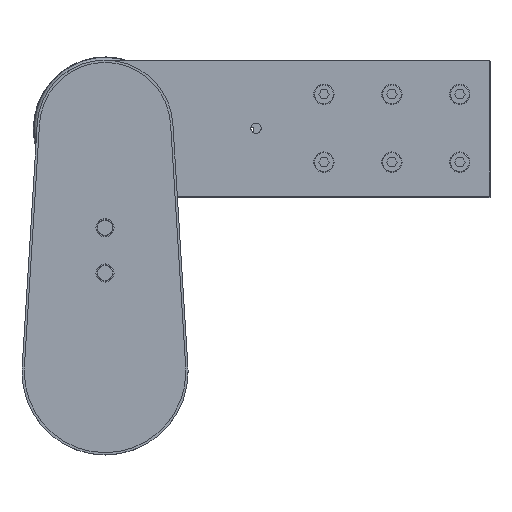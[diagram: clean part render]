
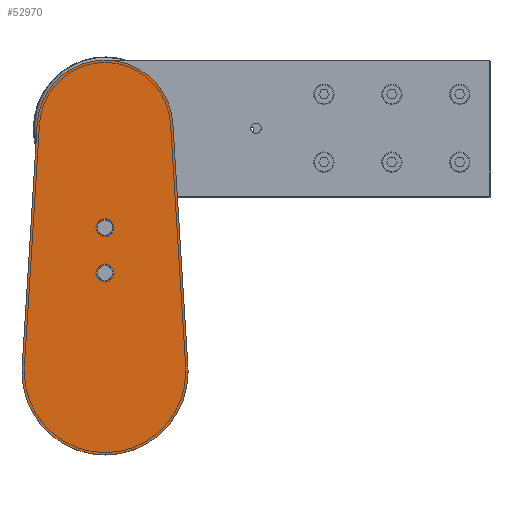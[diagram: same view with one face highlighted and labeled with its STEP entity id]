
A CAD part, top view. The second image highlights one B-rep face of the part: STEP entity #52970.
In plain terms, the highlighted planar face has unit normal (0, 0, 1) as drawn and (0, 0, -1) by its records, which use the part's own axes.
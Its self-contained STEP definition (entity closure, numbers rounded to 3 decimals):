
#586 = VERTEX_POINT ( 'NONE', #28489 ) ;
#587 = VERTEX_POINT ( 'NONE', #28490 ) ;
#591 = VERTEX_POINT ( 'NONE', #28494 ) ;
#594 = VERTEX_POINT ( 'NONE', #28497 ) ;
#597 = VERTEX_POINT ( 'NONE', #28500 ) ;
#609 = VERTEX_POINT ( 'NONE', #28512 ) ;
#3928 = EDGE_CURVE ( 'NONE', #46065, #46064, #30844, .T. ) ;
#4067 = EDGE_CURVE ( 'NONE', #46064, #46065, #30624, .T. ) ;
#4068 = EDGE_CURVE ( 'NONE', #46056, #46058, #30617, .T. ) ;
#4446 = EDGE_CURVE ( 'NONE', #46058, #46056, #30354, .T. ) ;
#4809 = EDGE_CURVE ( 'NONE', #591, #597, #51951, .T. ) ;
#4816 = EDGE_CURVE ( 'NONE', #586, #587, #9361, .T. ) ;
#4826 = EDGE_CURVE ( 'NONE', #594, #586, #9331, .T. ) ;
#4840 = EDGE_CURVE ( 'NONE', #587, #609, #17378, .T. ) ;
#4842 = EDGE_CURVE ( 'NONE', #597, #594, #9272, .T. ) ;
#4856 = EDGE_CURVE ( 'NONE', #609, #591, #9345, .T. ) ;
#6295 = CARTESIAN_POINT ( 'NONE',  ( 0., 95.5, 0. ) ) ;
#6296 = DIRECTION ( 'NONE',  ( 0., 0., -1. ) ) ;
#6297 = DIRECTION ( 'NONE',  ( 1., 0., 0. ) ) ;
#6749 = CARTESIAN_POINT ( 'NONE',  ( 0., 95.5, 0. ) ) ;
#6750 = DIRECTION ( 'NONE',  ( 0., 0., -1. ) ) ;
#6751 = DIRECTION ( 'NONE',  ( 1., 0., 0. ) ) ;
#6753 = CARTESIAN_POINT ( 'NONE',  ( 0., 65.5, 0. ) ) ;
#6754 = DIRECTION ( 'NONE',  ( 0., 0., -1. ) ) ;
#6755 = DIRECTION ( 'NONE',  ( 1., 0., 0. ) ) ;
#7679 = ORIENTED_EDGE ( 'NONE', *, *, #3928, .F. ) ;
#7682 = ORIENTED_EDGE ( 'NONE', *, *, #4067, .F. ) ;
#7685 = ORIENTED_EDGE ( 'NONE', *, *, #4446, .F. ) ;
#7688 = ORIENTED_EDGE ( 'NONE', *, *, #4068, .F. ) ;
#7691 = ORIENTED_EDGE ( 'NONE', *, *, #4856, .F. ) ;
#7694 = ORIENTED_EDGE ( 'NONE', *, *, #4840, .F. ) ;
#7697 = ORIENTED_EDGE ( 'NONE', *, *, #4816, .F. ) ;
#7700 = ORIENTED_EDGE ( 'NONE', *, *, #4826, .F. ) ;
#7703 = ORIENTED_EDGE ( 'NONE', *, *, #4842, .F. ) ;
#7706 = ORIENTED_EDGE ( 'NONE', *, *, #4809, .F. ) ;
#9272 = CIRCLE ( 'NONE', #9274, 55. ) ;
#9274 = AXIS2_PLACEMENT_3D ( 'NONE', #17401, #17403, #17405 ) ;
#9280 = AXIS2_PLACEMENT_3D ( 'NONE', #17333, #17334, #17336 ) ;
#9282 = VECTOR ( 'NONE', #17394, 1000. ) ;
#9302 = AXIS2_PLACEMENT_3D ( 'NONE', #17436, #17437, #17439 ) ;
#9323 = AXIS2_PLACEMENT_3D ( 'NONE', #17353, #17355, #17357 ) ;
#9326 = VECTOR ( 'NONE', #51953, 1000. ) ;
#9331 = CIRCLE ( 'NONE', #9323, 55. ) ;
#9345 = CIRCLE ( 'NONE', #9302, 45. ) ;
#9361 = CIRCLE ( 'NONE', #9280, 55. ) ;
#17333 = CARTESIAN_POINT ( 'NONE',  ( 0., 0., 0. ) ) ;
#17334 = DIRECTION ( 'NONE',  ( 0., 0., 1. ) ) ;
#17336 = DIRECTION ( 'NONE',  ( 1., 0., 0. ) ) ;
#17353 = CARTESIAN_POINT ( 'NONE',  ( 0., 0., 0. ) ) ;
#17355 = DIRECTION ( 'NONE',  ( 0., 0., 1. ) ) ;
#17357 = DIRECTION ( 'NONE',  ( 1., 0., 0. ) ) ;
#17378 = LINE ( 'NONE', #17379, #9282 ) ;
#17379 = CARTESIAN_POINT ( 'NONE',  ( 44.914, 164.286, 0. ) ) ;
#17394 = DIRECTION ( 'NONE',  ( -0.062, 0.998, 0. ) ) ;
#17401 = CARTESIAN_POINT ( 'NONE',  ( 0., 0., 0. ) ) ;
#17403 = DIRECTION ( 'NONE',  ( 0., 0., 1. ) ) ;
#17405 = DIRECTION ( 'NONE',  ( 1., 0., 0. ) ) ;
#17436 = CARTESIAN_POINT ( 'NONE',  ( 0., 161.5, 0. ) ) ;
#17437 = DIRECTION ( 'NONE',  ( 0., 0., 1. ) ) ;
#17439 = DIRECTION ( 'NONE',  ( 1., 0., 0. ) ) ;
#19119 = CARTESIAN_POINT ( 'NONE',  ( -3.5, 65.5, 0. ) ) ;
#19121 = CARTESIAN_POINT ( 'NONE',  ( 3.5, 65.5, 0. ) ) ;
#19128 = CARTESIAN_POINT ( 'NONE',  ( -3.5, 95.5, 0. ) ) ;
#19130 = CARTESIAN_POINT ( 'NONE',  ( 3.5, 95.5, 0. ) ) ;
#23878 = AXIS2_PLACEMENT_3D ( 'NONE', #31850, #31843, #31859 ) ;
#27780 = EDGE_LOOP ( 'NONE', ( #7679, #7682 ) ) ;
#27785 = EDGE_LOOP ( 'NONE', ( #7691, #7694, #7697, #7700, #7703, #7706 ) ) ;
#27954 = EDGE_LOOP ( 'NONE', ( #7685, #7688 ) ) ;
#28489 = CARTESIAN_POINT ( 'NONE',  ( 55., 0., 0. ) ) ;
#28490 = CARTESIAN_POINT ( 'NONE',  ( 54.894, 3.406, 0. ) ) ;
#28494 = CARTESIAN_POINT ( 'NONE',  ( -44.914, 164.286, 0. ) ) ;
#28497 = CARTESIAN_POINT ( 'NONE',  ( -55., 0., 0. ) ) ;
#28500 = CARTESIAN_POINT ( 'NONE',  ( -54.894, 3.406, 0. ) ) ;
#28512 = CARTESIAN_POINT ( 'NONE',  ( 44.914, 164.286, 0. ) ) ;
#30351 = AXIS2_PLACEMENT_3D ( 'NONE', #51448, #51449, #51450 ) ;
#30354 = CIRCLE ( 'NONE', #30351, 3.5 ) ;
#30613 = AXIS2_PLACEMENT_3D ( 'NONE', #6753, #6754, #6755 ) ;
#30616 = AXIS2_PLACEMENT_3D ( 'NONE', #6749, #6750, #6751 ) ;
#30617 = CIRCLE ( 'NONE', #30613, 3.5 ) ;
#30624 = CIRCLE ( 'NONE', #30616, 3.5 ) ;
#30838 = AXIS2_PLACEMENT_3D ( 'NONE', #6295, #6296, #6297 ) ;
#30844 = CIRCLE ( 'NONE', #30838, 3.5 ) ;
#31843 = DIRECTION ( 'NONE',  ( 0., 0., 1. ) ) ;
#31845 = FACE_BOUND ( 'NONE', #27954, .T. ) ;
#31850 = CARTESIAN_POINT ( 'NONE',  ( 0., 161.5, 0. ) ) ;
#31852 = FACE_BOUND ( 'NONE', #27780, .T. ) ;
#31855 = FACE_OUTER_BOUND ( 'NONE', #27785, .T. ) ;
#31856 = PLANE ( 'NONE',  #23878 ) ;
#31859 = DIRECTION ( 'NONE',  ( 1., 0., 0. ) ) ;
#46056 = VERTEX_POINT ( 'NONE', #19119 ) ;
#46058 = VERTEX_POINT ( 'NONE', #19121 ) ;
#46064 = VERTEX_POINT ( 'NONE', #19128 ) ;
#46065 = VERTEX_POINT ( 'NONE', #19130 ) ;
#51448 = CARTESIAN_POINT ( 'NONE',  ( 0., 65.5, 0. ) ) ;
#51449 = DIRECTION ( 'NONE',  ( 0., 0., -1. ) ) ;
#51450 = DIRECTION ( 'NONE',  ( 1., 0., 0. ) ) ;
#51951 = LINE ( 'NONE', #51952, #9326 ) ;
#51952 = CARTESIAN_POINT ( 'NONE',  ( -44.914, 164.286, 0. ) ) ;
#51953 = DIRECTION ( 'NONE',  ( -0.062, -0.998, 0. ) ) ;
#52970 = ADVANCED_FACE ( 'NONE', ( #31852, #31845, #31855 ), #31856, .F. ) ;
